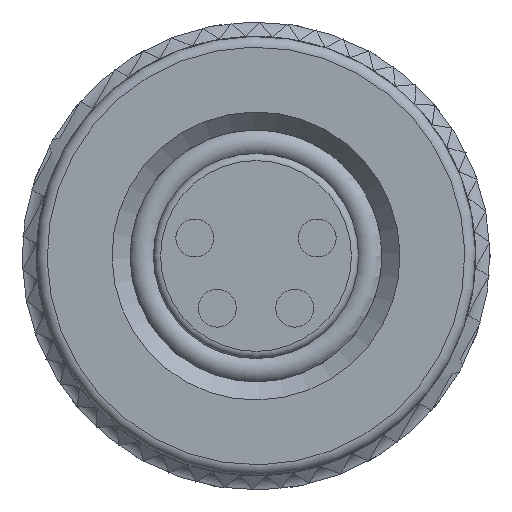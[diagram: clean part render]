
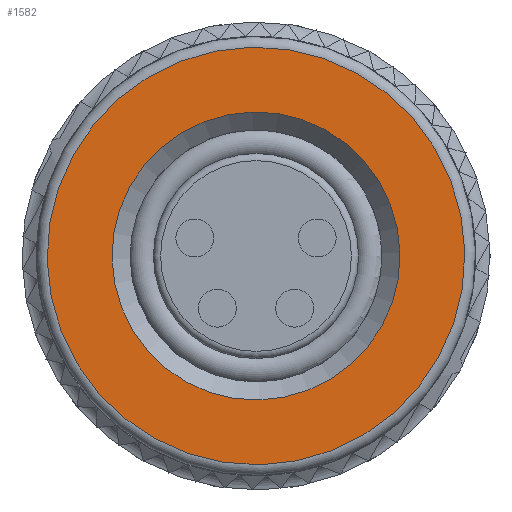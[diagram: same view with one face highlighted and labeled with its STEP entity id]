
A CAD part, left-side view. The second image highlights one B-rep face of the part: STEP entity #1582.
In plain terms, the highlighted planar face has unit normal (-1, 0, 0).
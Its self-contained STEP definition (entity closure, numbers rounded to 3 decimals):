
#1582 = ADVANCED_FACE( '', ( #3714, #3715 ), #3716, .T. );
#3714 = FACE_OUTER_BOUND( '', #6414, .T. );
#3715 = FACE_BOUND( '', #6415, .T. );
#3716 = PLANE( '', #6416 );
#6414 = EDGE_LOOP( '', ( #10857 ) );
#6415 = EDGE_LOOP( '', ( #10858 ) );
#6416 = AXIS2_PLACEMENT_3D( '', #10859, #10860, #10861 );
#10857 = ORIENTED_EDGE( '', *, *, #15775, .T. );
#10858 = ORIENTED_EDGE( '', *, *, #17103, .F. );
#10859 = CARTESIAN_POINT( '', ( -19.3, 1.931, -3.503 ) );
#10860 = DIRECTION( '', ( -1., 0., 0. ) );
#10861 = DIRECTION( '', ( 0., 0.483, -0.876 ) );
#15775 = EDGE_CURVE( '', #18799, #18799, #18800, .T. );
#17103 = EDGE_CURVE( '', #20901, #20901, #20902, .T. );
#18799 = VERTEX_POINT( '', #23078 );
#18800 = CIRCLE( '', #23079, 5.8 );
#20901 = VERTEX_POINT( '', #26765 );
#20902 = CIRCLE( '', #26766, 4. );
#23078 = CARTESIAN_POINT( '', ( -19.3, 2.8, -5.079 ) );
#23079 = AXIS2_PLACEMENT_3D( '', #29663, #29664, #29665 );
#26765 = CARTESIAN_POINT( '', ( -19.3, 1.931, -3.503 ) );
#26766 = AXIS2_PLACEMENT_3D( '', #30920, #30921, #30922 );
#29663 = CARTESIAN_POINT( '', ( -19.3, 0., 0. ) );
#29664 = DIRECTION( '', ( -1., 0., 0. ) );
#29665 = DIRECTION( '', ( 0., 0.483, -0.876 ) );
#30920 = CARTESIAN_POINT( '', ( -19.3, 0., 0. ) );
#30921 = DIRECTION( '', ( -1., 0., 0. ) );
#30922 = DIRECTION( '', ( 0., 0.483, -0.876 ) );
